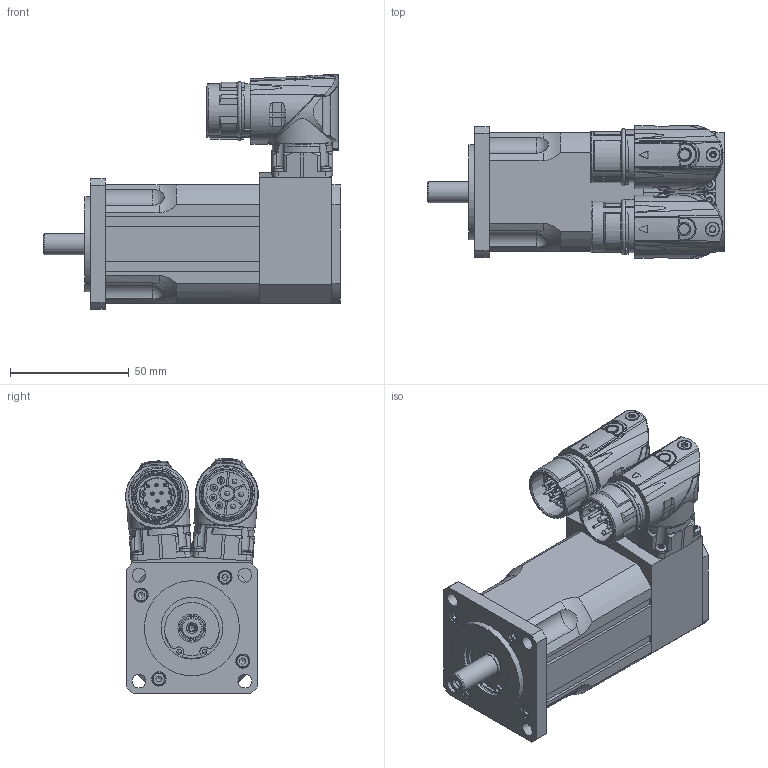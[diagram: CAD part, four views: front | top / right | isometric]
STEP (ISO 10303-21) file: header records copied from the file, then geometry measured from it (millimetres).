
FILE_DESCRIPTION(/* description */ (''),/* implementation_level */ '2;1');
FILE_NAME(/* name */ 'C:\PDF_output\N2057 00 B Z_0028_S4_S1_8P_12P.stp',/* time_stamp */ '2018-02-27T09:15:48+01:00',/* author */ ('oslejsek'),/* organization */ (''),/* preprocessor_version */ 'ST-DEVELOPER v17',/* originating_system */ 'Autodesk Inventor 2018',/* authorisation */ '');
FILE_SCHEMA (('AUTOMOTIVE_DESIGN { 1 0 10303 214 3 1 1 }'));
Products named in the file (9): N2057 00 B Z_0028_S4_S1_8P_12P; N2057 00 B Z_front; N2057 00 B Z_0028_rear_; BED_0201_8-polig, Stift; Basis 2; Basis 11; AED_0201_12-polig, Stift; 124888; 127323
Assembly tree (8 placements, depth 3):
  N2057 00 B Z_0028_S4_S1_8P_12P
    N2057 00 B Z_front
    N2057 00 B Z_0028_rear_
    BED_0201_8-polig, Stift
      Basis 2
      Basis 11
    AED_0201_12-polig, Stift
      124888
      127323
Bounding box: 125.2 x 55.85 x 98.91 mm (x, y, z)
Volume: 320957.3 mm3; surface area: 56502.7 mm2
Topology: 6 solids, 10 shells, 1780 faces, 4730 edges, 3008 vertices
Faces by surface type: cylinder 796, plane 497, bspline 256, cone 112, torus 81, sphere 38
Full cylindrical faces by diameter (mm): 1 x16, 1.18 x12, 1.2 x12, 1.3 x4, 2 x6, 2.013 x2, 2.208 x8, 2.4 x8, 2.459 x1, 2.5 x8, 2.7 x4, 2.8 x4, 3 x9, 3.1 x4, 3.2 x6, 4.5 x2, 5.5 x6, 5.6 x4, 5.8 x5, 5.9 x2, 6 x4, 6.5 x4, 6.8 x1, 9 x1, 10 x3, 15.2 x1, 17.4 x1, 17.955 x1, 19.8 x2, 19.9 x1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
Entity records: 70573 total; most frequent: CARTESIAN_POINT 24681, ORIENTED_EDGE 9364, DIRECTION 9225, EDGE_CURVE 4682, AXIS2_PLACEMENT_3D 3831, VERTEX_POINT 3008, CIRCLE 2076, EDGE_LOOP 1974
